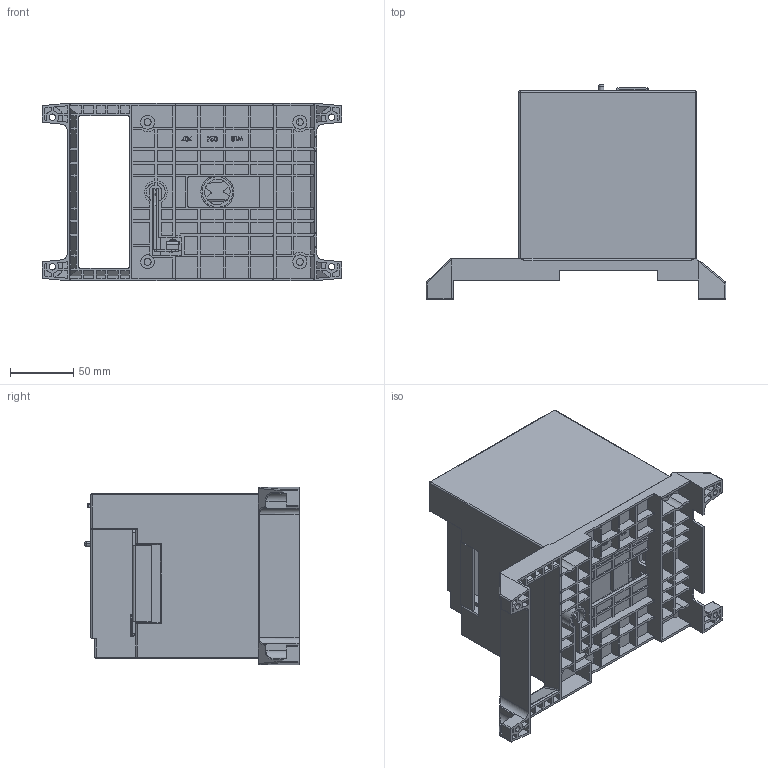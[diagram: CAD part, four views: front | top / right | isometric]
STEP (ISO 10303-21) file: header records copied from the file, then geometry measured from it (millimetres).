
FILE_DESCRIPTION (( 'STEP AP203' ), '1' );
FILE_NAME ('NDM5-(400)630µç¶¯²Ù×÷»ú¹¹.STEP', '2021-12-21T06:09:52', ( '' ), ( '' ), 'SwSTEP 2.0', 'SolidWorks 2018', '' );
FILE_SCHEMA (( 'CONFIG_CONTROL_DESIGN' ));
Length unit declared in the file: millimetre
Products named in the file (1): NDM5-(400)630电动操作机构×÷_ú11_á___¨211
Bounding box: 236 x 168.7 x 140 mm (x, y, z)
Volume: 577472.6 mm3; surface area: 460460.1 mm2
Topology: 18 solids, 18 shells, 2192 faces, 5850 edges, 3729 vertices
Faces by surface type: plane 1291, cylinder 729, bspline 74, sphere 38, torus 31, cone 29
Entity records: 71398 total; most frequent: CARTESIAN_POINT 16378, ORIENTED_EDGE 11622, DIRECTION 11140, EDGE_CURVE 5811, LINE 4156, VECTOR 4156, VERTEX_POINT 3726, AXIS2_PLACEMENT_3D 3492
